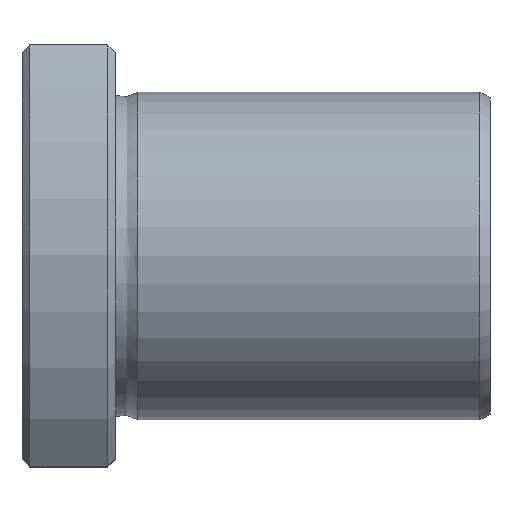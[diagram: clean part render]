
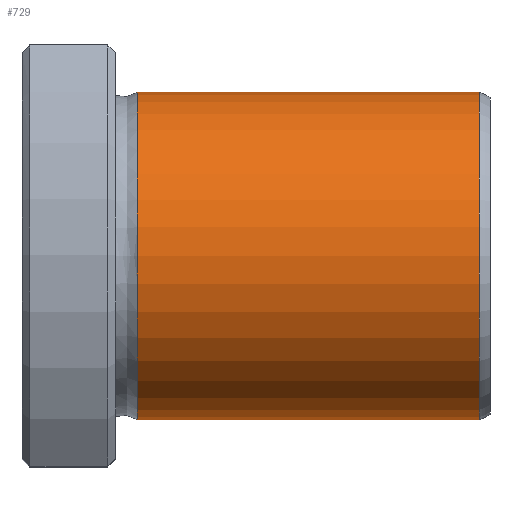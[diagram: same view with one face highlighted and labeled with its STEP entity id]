
A CAD part, top view. The second image highlights one B-rep face of the part: STEP entity #729.
In plain terms, the highlighted cylindrical face has radius 10.5 mm (diameter 21 mm), a full revolution.
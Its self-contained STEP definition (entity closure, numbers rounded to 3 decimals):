
#695=CARTESIAN_POINT('',(29.304,0.0,10.5));
#696=VERTEX_POINT('',#695);
#697=CARTESIAN_POINT('',(29.304,0.0,0.0));
#698=DIRECTION('',(-1.0,0.0,0.0));
#699=DIRECTION('',(0.0,0.0,1.0));
#700=AXIS2_PLACEMENT_3D('',#697,#698,#699);
#701=CIRCLE('',#700,10.5);
#702=EDGE_CURVE('',#696,#696,#701,.T.);
#710=CARTESIAN_POINT('',(18.352,0.0,0.0));
#711=DIRECTION('',(-1.0,0.0,0.0));
#712=DIRECTION('',(0.0,0.0,1.0));
#713=AXIS2_PLACEMENT_3D('',#710,#711,#712);
#714=CYLINDRICAL_SURFACE('',#713,10.5);
#715=CARTESIAN_POINT('',(7.4,0.0,10.5));
#716=VERTEX_POINT('',#715);
#717=CARTESIAN_POINT('',(7.4,0.0,0.0));
#718=DIRECTION('',(-1.0,0.0,0.0));
#719=DIRECTION('',(0.0,0.0,1.0));
#720=AXIS2_PLACEMENT_3D('',#717,#718,#719);
#721=CIRCLE('',#720,10.5);
#722=EDGE_CURVE('',#716,#716,#721,.T.);
#723=ORIENTED_EDGE('',*,*,#722,.F.);
#724=EDGE_LOOP('',(#723));
#725=FACE_OUTER_BOUND('',#724,.T.);
#726=ORIENTED_EDGE('',*,*,#702,.T.);
#727=EDGE_LOOP('',(#726));
#728=FACE_BOUND('',#727,.T.);
#729=ADVANCED_FACE('',(#725,#728),#714,.T.);
